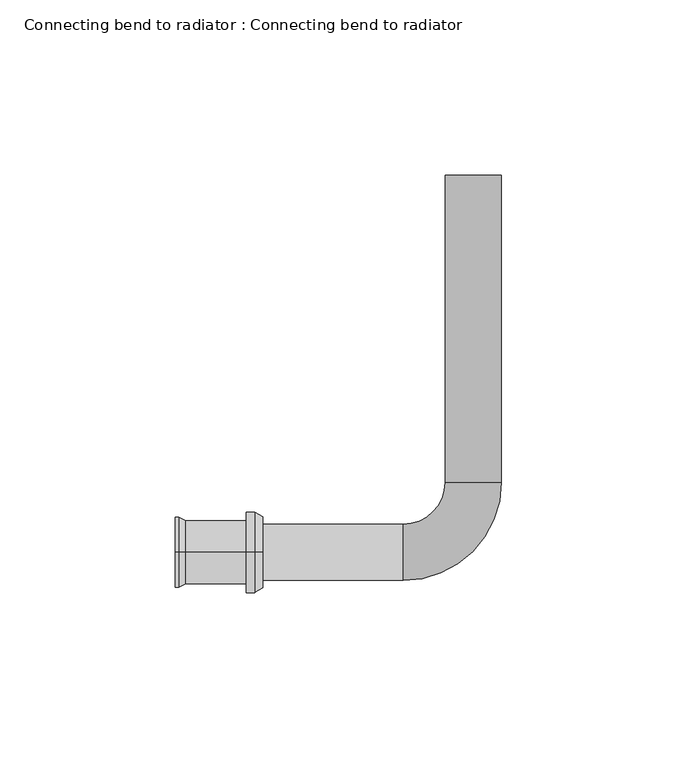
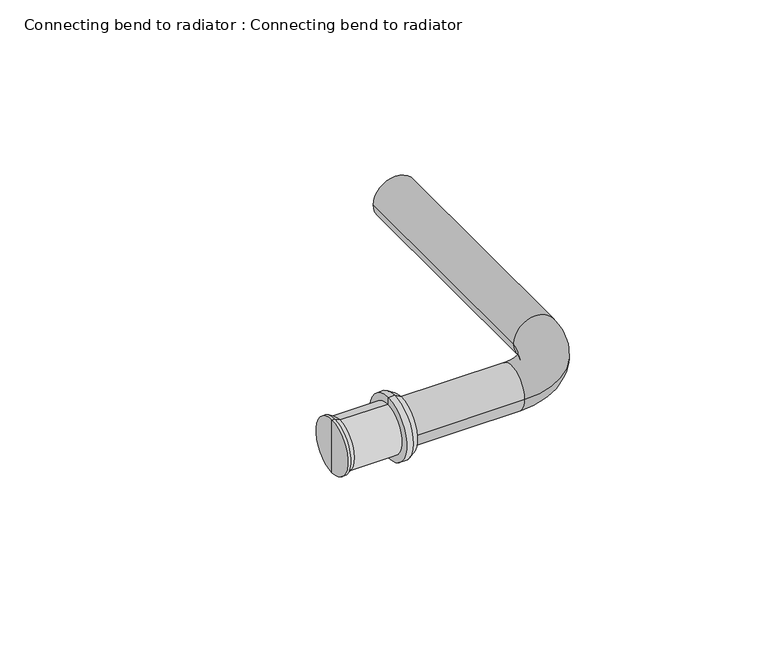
"""IFC4 building model written with IfcOpenShell, lengths in millimetres: pipe fitting geometry, Connecting bend to radiator : Connecting bend to radiator."""

from ifc_helpers import new_model, si_unit, point, frame, origin, place, context, project, spatial, polyline, circle_curve, ellipse_curve, trimmed, source, transform, mapped, element, save
from ifc_brep_helpers import plane_surface, cylinder_surface, revolved_surface, advanced_brep


def connecting_bend_to_radiator_connecting_bend_to_radiator_1cb9ffc1(model_context):
    return source(origin(), model_context, "Body", "AdvancedBrep", [
        advanced_brep(
        [(-60.0, 0.0, 0.0), (-60.0, 0.0, 10.1432269), (-60.0, 0.0, -10.1432269), (-64.7, 0.0, -11.5), (-64.7, 0.0, 11.5), (-64.7, 0.0, 0.0), (-62.35, 0.0, -11.5), (-62.35, 0.0, 11.5)],
        [
            (0, 1),
            (1, 2, circle_curve(frame((-60.0, 0.0, 0.0), z_axis=(1.0, 0.0, 0.0), x_axis=(0.0, 0.0, 1.0)), 10.1432269)),
            (2, 0),
            (2, 1, circle_curve(frame((-60.0, 0.0, 0.0), z_axis=(1.0, 0.0, 0.0), x_axis=(0.0, 0.0, 1.0)), 10.1432269)),
            (3, 4, circle_curve(frame((-64.7, 0.0, 0.0), z_axis=(-1.0, 0.0, 0.0), x_axis=(0.0, 0.0, 1.0)), 11.5)),
            (4, 5),
            (5, 3),
            (4, 3, circle_curve(frame((-64.7, 0.0, 0.0), z_axis=(-1.0, 0.0, 0.0), x_axis=(0.0, 0.0, 1.0)), 11.5)),
            (6, 7, circle_curve(frame((-62.35, 0.0, 0.0), z_axis=(-1.0, 0.0, 0.0), x_axis=(0.0, 0.0, 1.0)), 11.5)),
            (7, 4),
            (3, 6),
            (7, 6, circle_curve(frame((-62.35, 0.0, 0.0), z_axis=(-1.0, 0.0, 0.0), x_axis=(0.0, 0.0, 1.0)), 11.5)),
            (1, 7),
            (6, 2),
        ],
        [
            plane_surface(frame((-60.0, 0.0, 0.0), z_axis=(1.0, 0.0, 0.0), x_axis=(0.0, 0.0, 1.0))),
            plane_surface(frame((-64.7, 0.0, 0.0), z_axis=(-1.0, 0.0, 0.0), x_axis=(0.0, 0.0, 1.0))),
            cylinder_surface(frame((-61.0, 0.0, 0.0), z_axis=(1.0, 0.0, 0.0), x_axis=(0.0, 0.0, 1.0)), 11.5),
            revolved_surface(polyline([(-62.35, 0.0, 11.5), (-60.0, 0.0, 10.1432269)]), (-61.0, 0.0, 0.0), (1.0, 0.0, 0.0)),
        ],
        [
            (0, [[1, 2, 3]]),
            (0, [[-3, 4, -1]]),
            (1, [[5, 6, 7]]),
            (1, [[8, -7, -6]]),
            (2, [[9, 10, -5, 11]]),
            (2, [[12, -11, -8, -10]]),
            (3, [[-2, 13, -9, 14]]),
            (3, [[-4, -14, -12, -13]]),
        ],
    ),
        advanced_brep(
        [(-64.7, 0.0, -9.0), (-64.7, 0.0, 9.0), (-82.0, 0.0, 9.0), (-82.0, 0.0, -9.0), (-85.0, 0.0, -10.0), (-85.0, 0.0, 10.0), (-85.0, 0.0, 0.0), (-64.7, 0.0, 0.0), (-84.0, 0.0, -10.0), (-84.0, 0.0, 10.0)],
        [
            (0, 1, circle_curve(frame((-64.7, 0.0, 0.0), z_axis=(-1.0, 0.0, 0.0), x_axis=(0.0, 0.0, 1.0)), 9.0)),
            (1, 2),
            (2, 3, circle_curve(frame((-82.0, 0.0, 0.0), z_axis=(1.0, 0.0, 0.0), x_axis=(0.0, 0.0, 1.0)), 9.0)),
            (3, 0),
            (1, 0, circle_curve(frame((-64.7, 0.0, 0.0), z_axis=(-1.0, 0.0, 0.0), x_axis=(0.0, 0.0, 1.0)), 9.0)),
            (3, 2, circle_curve(frame((-82.0, 0.0, 0.0), z_axis=(1.0, 0.0, 0.0), x_axis=(0.0, 0.0, 1.0)), 9.0)),
            (4, 5, circle_curve(frame((-85.0, 0.0, 0.0), z_axis=(-1.0, 0.0, 0.0), x_axis=(0.0, 0.0, 1.0)), 10.0)),
            (5, 6),
            (6, 4),
            (5, 4, circle_curve(frame((-85.0, 0.0, 0.0), z_axis=(-1.0, 0.0, 0.0), x_axis=(0.0, 0.0, 1.0)), 10.0)),
            (7, 1),
            (0, 7),
            (8, 9, circle_curve(frame((-84.0, 0.0, 0.0), z_axis=(-1.0, 0.0, 0.0), x_axis=(0.0, 0.0, 1.0)), 10.0)),
            (9, 5),
            (4, 8),
            (9, 8, circle_curve(frame((-84.0, 0.0, 0.0), z_axis=(-1.0, 0.0, 0.0), x_axis=(0.0, 0.0, 1.0)), 10.0)),
            (2, 9),
            (8, 3),
        ],
        [
            cylinder_surface(frame((1850.8038476, 0.0, 0.0), z_axis=(1.0, 0.0, 0.0), x_axis=(0.0, 0.0, 1.0)), 9.0),
            plane_surface(frame((-85.0, 0.0, 0.0), z_axis=(-1.0, 0.0, 0.0), x_axis=(0.0, 0.0, 1.0))),
            plane_surface(frame((-64.7, 0.0, 0.0), z_axis=(1.0, 0.0, 0.0), x_axis=(0.0, 0.0, 1.0))),
            cylinder_surface(frame((1850.8038476, 0.0, 0.0), z_axis=(1.0, 0.0, 0.0), x_axis=(0.0, 0.0, 1.0)), 10.0),
            revolved_surface(polyline([(-84.0, 0.0, 10.0), (-82.0, 0.0, 9.0)]), (1850.8038476, 0.0, 0.0), (1.0, 0.0, 0.0)),
        ],
        [
            (0, [[1, 2, 3, 4]]),
            (0, [[5, -4, 6, -2]]),
            (1, [[7, 8, 9]]),
            (1, [[10, -9, -8]]),
            (2, [[11, -1, 12]]),
            (2, [[-12, -5, -11]]),
            (3, [[13, 14, -7, 15]]),
            (3, [[16, -15, -10, -14]]),
            (4, [[-3, 17, -13, 18]]),
            (4, [[-6, -18, -16, -17]]),
        ],
    ),
        advanced_brep(
        [(-8.0, 107.5298974, 0.0), (8.0, 107.5298974, 0.0), (-8.0, 20.0, 0.0), (8.0, 20.0, 0.0), (-20.0, -8.0, 0.0), (-20.0, 8.0, 0.0), (-61.0, 8.0, 0.0), (-61.0, -8.0, 0.0)],
        [
            (0, 1, circle_curve(frame((0.0, 107.5298974, 0.0), z_axis=(0.0, 1.0, 0.0), x_axis=(1.0, 0.0, 0.0)), 8.0)),
            (1, 0, circle_curve(frame((0.0, 107.5298974, 0.0), z_axis=(0.0, 1.0, 0.0), x_axis=(1.0, 0.0, 0.0)), 8.0)),
            (0, 2),
            (2, 3, circle_curve(frame((0.0, 20.0, 0.0), z_axis=(0.0, 1.0, 0.0), x_axis=(1.0, 0.0, 0.0)), 8.0)),
            (3, 1),
            (3, 2, circle_curve(frame((0.0, 20.0, 0.0), z_axis=(0.0, 1.0, 0.0), x_axis=(1.0, 0.0, 0.0)), 8.0)),
            (4, 3, circle_curve(frame((-20.0, 20.0, 0.0), z_axis=(0.0, 0.0, 1.0), x_axis=(1.0, 0.0, 0.0)), 28.0)),
            (2, 5, circle_curve(frame((-20.0, 20.0, 0.0), z_axis=(0.0, 0.0, -1.0), x_axis=(1.0, 0.0, 0.0)), 12.0)),
            (5, 4, circle_curve(frame((-20.0, 0.0, 0.0), z_axis=(1.0, 0.0, 0.0), x_axis=(0.0, -1.0, 0.0)), 8.0)),
            (4, 5, circle_curve(frame((-20.0, 0.0, 0.0), z_axis=(1.0, 0.0, 0.0), x_axis=(0.0, -1.0, 0.0)), 8.0)),
            (6, 7, circle_curve(frame((-61.0, 0.0, 0.0), z_axis=(-1.0, 0.0, 0.0), x_axis=(0.0, -1.0, 0.0)), 8.0)),
            (7, 6, circle_curve(frame((-61.0, 0.0, 0.0), z_axis=(-1.0, 0.0, 0.0), x_axis=(0.0, -1.0, 0.0)), 8.0)),
            (5, 6),
            (7, 4),
        ],
        [
            plane_surface(frame((0.0, 107.5298974, 0.0), z_axis=(0.0, 1.0, 0.0), x_axis=(0.0, 0.0, 1.0))),
            cylinder_surface(frame((0.0, 107.5298974, 0.0), z_axis=(0.0, 1.0, 0.0), x_axis=(1.0, 0.0, 0.0)), 8.0),
            revolved_surface(trimmed(ellipse_curve(frame((0.0, 20.0, 0.0), z_axis=(0.0, 1.0, 0.0), x_axis=(1.0, 0.0, 0.0)), 8.0, 8.0), [point((-8.0, 20.0, 0.0))], [point((8.0, 20.0, 0.0))], True, "CARTESIAN"), (-20.0, 20.0, 0.0), (0.0, 0.0, -1.0)),
            revolved_surface(trimmed(ellipse_curve(frame((0.0, 20.0, 0.0), z_axis=(0.0, 1.0, 0.0), x_axis=(1.0, 0.0, 0.0)), 8.0, 8.0), [point((8.0, 20.0, 0.0))], [point((-8.0, 20.0, 0.0))], True, "CARTESIAN"), (-20.0, 20.0, 0.0), (0.0, 0.0, -1.0)),
            plane_surface(frame((-61.0, 0.0, 0.0), z_axis=(-1.0, 0.0, 0.0), x_axis=(0.0, 0.0, 1.0))),
            cylinder_surface(frame((-20.0, 0.0, 0.0), z_axis=(1.0, 0.0, 0.0), x_axis=(0.0, -1.0, 0.0)), 8.0),
        ],
        [
            (0, [[1, 2]]),
            (1, [[-1, 3, 4, 5]]),
            (1, [[-2, -5, 6, -3]]),
            (2, [[7, -4, 8, 9]]),
            (3, [[-8, -6, -7, 10]]),
            (4, [[11, 12]]),
            (5, [[-9, 13, -12, 14]]),
            (5, [[-10, -14, -11, -13]]),
        ],
    ),
    ])


if __name__ == "__main__":
    model = new_model("IFC4")
    model_context = context("Model", 3, world=origin())
    ifc_project = project(units=[si_unit("LENGTHUNIT", "METRE", prefix="MILLI")], contexts=[model_context])
    site = spatial("IfcSite", under=ifc_project)
    building = spatial("IfcBuilding", under=site)
    placement = place(None, origin())
    connecting_bend_to_radiator_connecting_bend_to_radiator_shape = connecting_bend_to_radiator_connecting_bend_to_radiator_1cb9ffc1(model_context)
    element("IfcPipeFitting", 1, ObjectType="Connecting bend to radiator : Connecting bend to radiator", at=placement, inside=building, context=model_context, shape_type="MappedRepresentation", body=[
        mapped(connecting_bend_to_radiator_connecting_bend_to_radiator_shape, transform((0.0, 0.0, 0.0), x_axis=(1.0, 0.0, 0.0), y_axis=(0.0, 1.0, 0.0), z_axis=(0.0, 0.0, 1.0))),
    ])
    save(model, "model.ifc")
